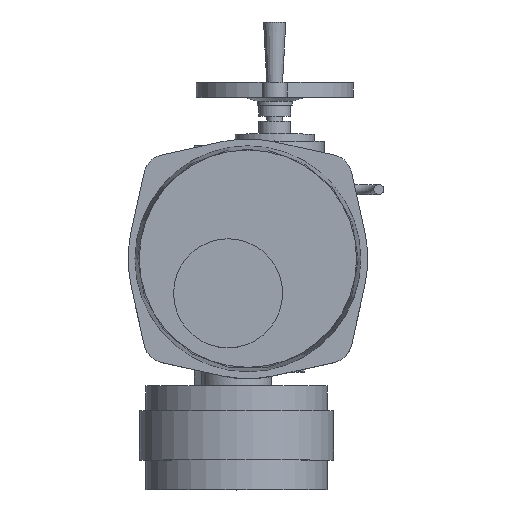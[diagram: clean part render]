
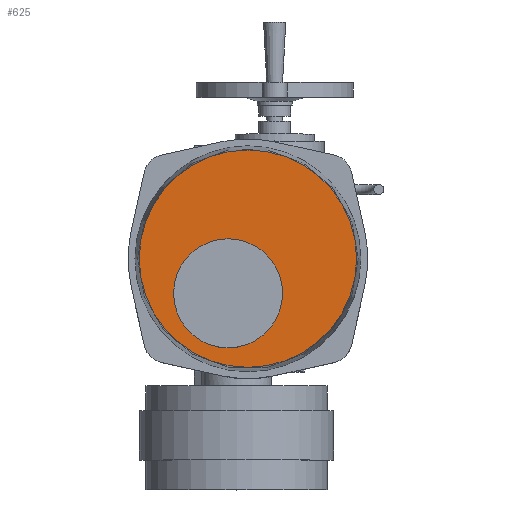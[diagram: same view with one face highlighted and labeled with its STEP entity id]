
A CAD part, top view. The second image highlights one B-rep face of the part: STEP entity #625.
In plain terms, the highlighted planar face has unit normal (0, 0, 1).
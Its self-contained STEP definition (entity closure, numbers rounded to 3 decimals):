
#625=ADVANCED_FACE('',(#8503,#8505),#8507,.T.);
#8503=FACE_BOUND('',#8504,.T.);
#8504=EDGE_LOOP('',(#14639));
#8505=FACE_BOUND('',#8506,.T.);
#8506=EDGE_LOOP('',(#14640));
#8507=PLANE('',#8508);
#8508=AXIS2_PLACEMENT_3D('',#8509,#8510,#8511);
#8509=CARTESIAN_POINT('',(20.,38.,576.));
#8510=DIRECTION('',(0.,0.,1.));
#8511=DIRECTION('',(-1.,0.,0.));
#14639=ORIENTED_EDGE('',*,*,#19476,.T.);
#14640=ORIENTED_EDGE('',*,*,#19479,.F.);
#19476=EDGE_CURVE('',#22090,#22090,#22091,.T.);
#19479=EDGE_CURVE('',#22096,#22096,#22097,.T.);
#22090=VERTEX_POINT('',#27329);
#22091=CIRCLE('',#27330,109.703);
#22096=VERTEX_POINT('',#27344);
#22097=CIRCLE('',#27345,55.);
#27329=CARTESIAN_POINT('',(-89.703,38.,576.));
#27330=AXIS2_PLACEMENT_3D('',#27331,#27332,#27333);
#27331=CARTESIAN_POINT('',(20.,38.,576.));
#27332=DIRECTION('',(0.,0.,1.));
#27333=DIRECTION('',(-1.,0.,0.));
#27344=CARTESIAN_POINT('',(-55.,3.,576.));
#27345=AXIS2_PLACEMENT_3D('',#27346,#27347,#27348);
#27346=CARTESIAN_POINT('',(0.,3.,576.));
#27347=DIRECTION('',(0.,0.,1.));
#27348=DIRECTION('',(-1.,0.,0.));
